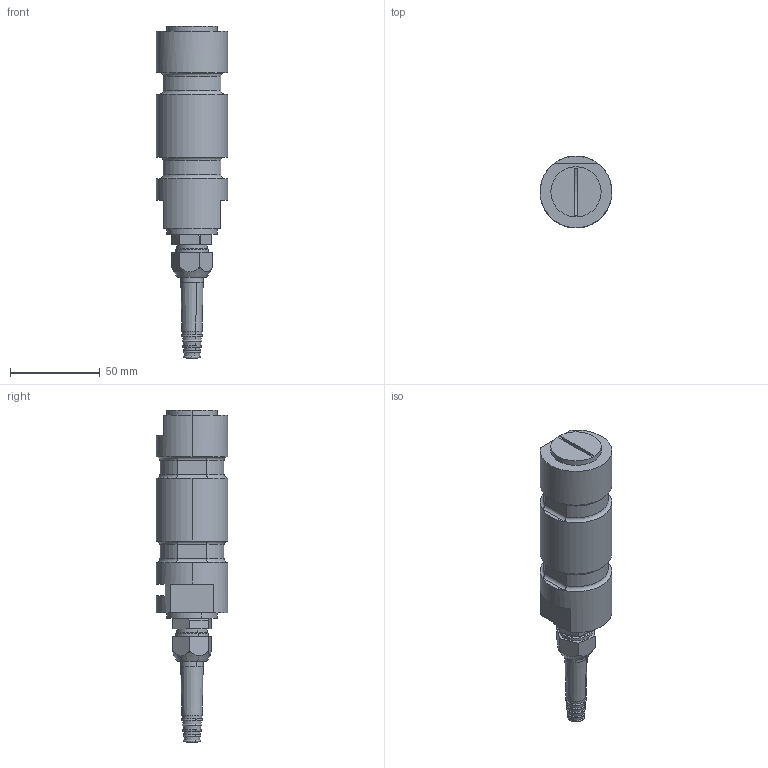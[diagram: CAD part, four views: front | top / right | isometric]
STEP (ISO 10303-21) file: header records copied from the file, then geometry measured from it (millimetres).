
FILE_DESCRIPTION (( 'STEP AP214' ), '1' );
FILE_NAME ('KOSD-40 50 kN Load Cell.STEP', '2021-03-15T09:56:39', ( '' ), ( '' ), 'SwSTEP 2.0', 'SolidWorks 2021', '' );
FILE_SCHEMA (( 'AUTOMOTIVE_DESIGN' ));
Length unit declared in the file: millimetre
Products named in the file (5): KOSD-40 50 kN Load Cell; M26x1.5 - Lock - 600490r1; M26x1.5 - Pg9 - 6369829; Pg9 - 1009.52 6_2_14; 4095957r4
Assembly tree (4 placements, depth 2):
  KOSD-40 50 kN Load Cell
    4095957r4
    M26x1.5 - Pg9 - 6369829
    Pg9 - 1009.52 6_2_14
    M26x1.5 - Lock - 600490r1
Bounding box: 40 x 40 x 185 mm (x, y, z)
Volume: 142407.4 mm3; surface area: 29751.9 mm2
Topology: 4 solids, 7 shells, 218 faces, 502 edges, 311 vertices
Faces by surface type: cylinder 76, plane 63, cone 45, torus 18, bspline 16
Entity records: 11082 total; most frequent: CARTESIAN_POINT 5652, DIRECTION 1002, ORIENTED_EDGE 1000, EDGE_CURVE 500, AXIS2_PLACEMENT_3D 424, VERTEX_POINT 311, EDGE_LOOP 243, FACE_OUTER_BOUND 218
